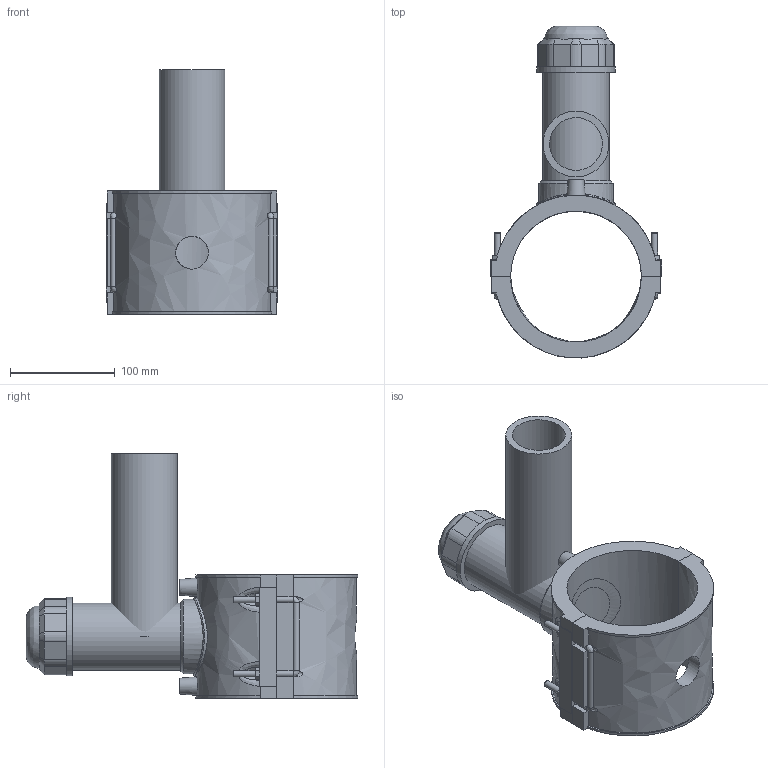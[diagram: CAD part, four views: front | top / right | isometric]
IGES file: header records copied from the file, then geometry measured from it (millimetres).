
Global section: file name: 4963P4125063; native system: Autodesk Inventor 2019; preprocessor: unknown; author: KIM; date: 20220317.112902; units: millimetre
Bounding box: 164 x 317.08 x 234 mm (x, y, z)
Volume: 1281506.1 mm3; surface area: 271201.2 mm2
Topology: 3 solids, 5 shells, 201 faces, 517 edges, 333 vertices
Faces by surface type: bspline 201
